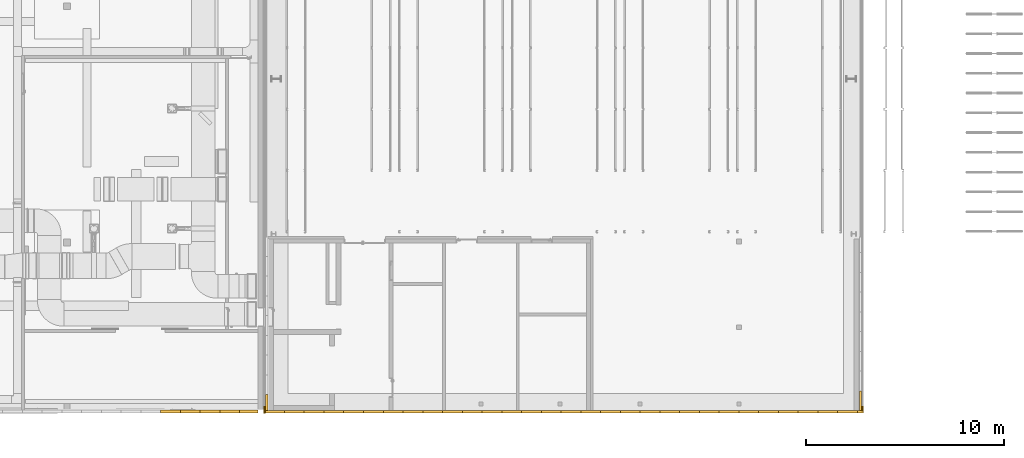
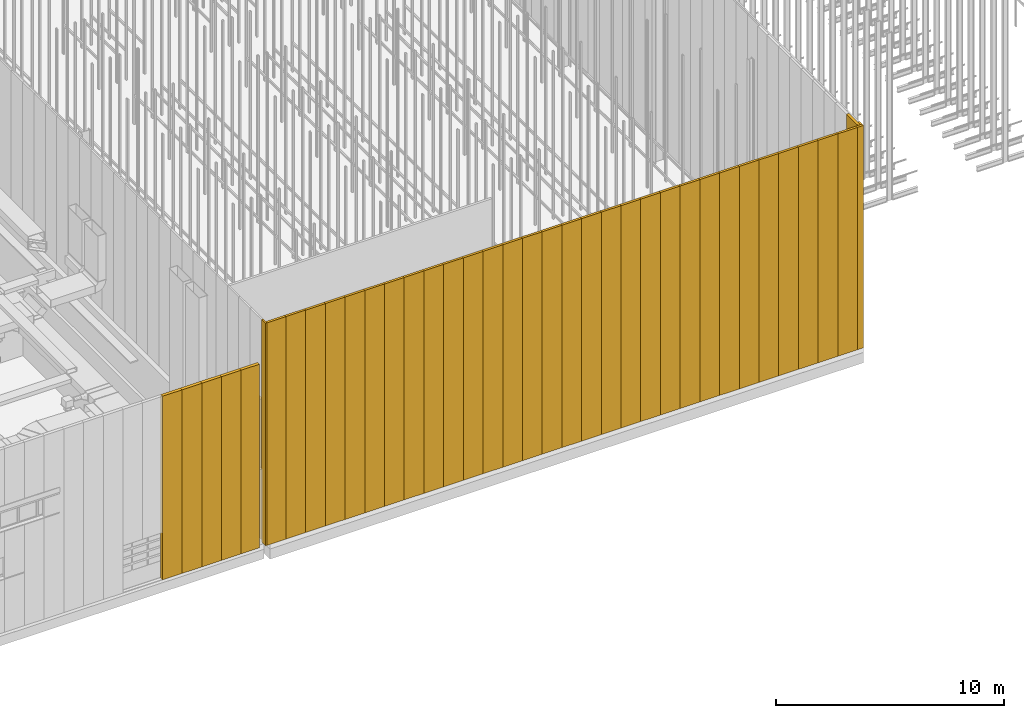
# One storey, part 227 of 302: 40 curtain walls, 6 elements without a shape of their own.
"""IFC2X3 building model written with IfcOpenShell, lengths in metres."""

import ifcopenshell
import ifcopenshell.guid

model = None  # the IFC model being written
_history = None  # IfcOwnerHistory: only IFC2X3 demands one
_inside = {}  # id of a spatial element -> (the spatial element, [elements in it])
_under = {}  # id of a project, library or spatial element -> (it, [spatial elements below it])
_declared = {}  # id of a project -> (the project, [libraries it declares])
_typed = {}  # id of a type object -> (the type object, [elements of that type])
_made_of = {}  # id of a material, layer set ... -> (it, [elements and type objects made of it])


def new_model(schema):
    """Start an empty IFC model of exactly this schema.

    Asked for "IFC4X3", IfcOpenShell would pick the latest addendum, in which some entities
    have other attributes; the version numbers below select the first issue.
    IFC2X3 requires an IfcOwnerHistory on every rooted entity: one is made here for all.
    """
    global model, _history
    if schema == "IFC4X3":
        model = ifcopenshell.file(schema_version=(4, 3, 0, 0))
    else:
        model = ifcopenshell.file(schema=schema)
    _inside.clear()
    _under.clear()
    _declared.clear()
    _typed.clear()
    _made_of.clear()
    _history = None
    if model.schema == "IFC2X3":
        org = make("IfcOrganization", Name="unknown")
        user = make(
            "IfcPersonAndOrganization",
            ThePerson=make("IfcPerson", FamilyName="unknown"),
            TheOrganization=org,
        )
        app = make(
            "IfcApplication",
            ApplicationDeveloper=org,
            Version="unknown",
            ApplicationFullName="unknown",
            ApplicationIdentifier="unknown",
        )
        _history = make(
            "IfcOwnerHistory",
            OwningUser=user,
            OwningApplication=app,
            ChangeAction="ADDED",
            CreationDate=0,
        )
    return model


def make(cls, **values):
    """One entity of the class cls with the attributes given. An attribute that is None is left unset."""
    return model.create_entity(
        cls, **{name: value for name, value in values.items() if value is not None}
    )


def entity(cls, *values):
    """Any entity or typed value of the class cls, its attributes in the order of the schema. None: left unset."""
    e = model.create_entity(cls)
    for i, value in enumerate(values):
        if value is not None:
            e[i] = value
    return e


def rooted(cls, **values):
    """An entity with a GlobalId (a new one), such as an element, a storey or a relation."""
    return make(cls, GlobalId=ifcopenshell.guid.new(), OwnerHistory=_history, **values)


def si_unit(unit_type, name, prefix=None):
    """IfcSIUnit, for example si_unit("LENGTHUNIT", "METRE", prefix="MILLI")."""
    return make("IfcSIUnit", UnitType=unit_type, Prefix=prefix, Name=name)


def converted_unit(unit_type, name, factor, base, dimensions=None, offset=None):
    """IfcConversionBasedUnit, such as the inch: factor (a typed value) times the base unit."""
    return make(
        "IfcConversionBasedUnit"
        if offset is None
        else "IfcConversionBasedUnitWithOffset",
        ConversionOffset=offset,
        Dimensions=None
        if dimensions is None
        else entity("IfcDimensionalExponents", *dimensions),
        UnitType=unit_type,
        Name=name,
        ConversionFactor=make(
            "IfcMeasureWithUnit", ValueComponent=factor, UnitComponent=base
        ),
    )


def derived_unit(unit_type, elements):
    """IfcDerivedUnit: a product of units, each with its exponent."""
    return make(
        "IfcDerivedUnit",
        Elements=[
            make("IfcDerivedUnitElement", Unit=unit, Exponent=power)
            for unit, power in elements
        ],
        UnitType=unit_type,
    )


def assignment(units):
    """IfcUnitAssignment: the units of a project."""
    return None if units is None else make("IfcUnitAssignment", Units=units)


def point(xyz):
    """IfcCartesianPoint."""
    return None if xyz is None else make("IfcCartesianPoint", Coordinates=xyz)


def direction(xyz):
    """IfcDirection."""
    return None if xyz is None else make("IfcDirection", DirectionRatios=xyz)


def frame(location, z_axis=None, x_axis=None):
    """IfcAxis2Placement3D, a coordinate frame: its origin and axes. An axis left out is left unset."""
    return make(
        "IfcAxis2Placement3D",
        Location=point(location),
        Axis=direction(z_axis),
        RefDirection=direction(x_axis),
    )


def frame_2d(location, x_axis=None):
    """IfcAxis2Placement2D, a coordinate frame in the plane: its origin and x axis."""
    return make(
        "IfcAxis2Placement2D", Location=point(location), RefDirection=direction(x_axis)
    )


def origin():
    """The frame at (0, 0, 0) with its axes left unset."""
    return frame((0.0, 0.0, 0.0))


def place(relative_to, where):
    """IfcLocalPlacement: puts the frame where relative to a parent placement (None: the world)."""
    return make(
        "IfcLocalPlacement", PlacementRelTo=relative_to, RelativePlacement=where
    )


def context(
    kind, dimensions, precision=None, world=None, true_north=None, identifier=None
):
    """IfcGeometricRepresentationContext, for example the 3D "Model" context."""
    return make(
        "IfcGeometricRepresentationContext",
        ContextIdentifier=identifier,
        ContextType=kind,
        CoordinateSpaceDimension=dimensions,
        Precision=precision,
        WorldCoordinateSystem=world,
        TrueNorth=true_north,
    )


def subcontext(parent, identifier, kind, view, scale=None):
    """IfcGeometricRepresentationSubContext, for example "Body" below "Model"."""
    return make(
        "IfcGeometricRepresentationSubContext",
        ContextIdentifier=identifier,
        ContextType=kind,
        ParentContext=parent,
        TargetScale=scale,
        TargetView=view,
    )


def project(units=None, contexts=None):
    """IfcProject with its units and contexts."""
    return rooted(
        "IfcProject",
        Name="project",
        RepresentationContexts=contexts,
        UnitsInContext=assignment(units),
    )


def spatial(cls, under=None, at=None, **own):
    """A site, building, storey or space (cls), placed at a placement, below another one or the project."""
    s = rooted(cls, ObjectPlacement=at, **own)
    if under is not None:
        _under.setdefault(under.id(), (under, []))[1].append(s)
    return s


def profile(cls, at=None, kind="AREA", **sizes):
    """A parametric profile (cls). Its sizes go by their IFC names, for example OverallWidth=200.0."""
    return make(cls, ProfileType=kind, Position=at, **sizes)


def rectangle(**sizes):
    """IfcRectangleProfileDef."""
    return profile("IfcRectangleProfileDef", **sizes)


def extrude(swept, where, along, depth):
    """IfcExtrudedAreaSolid: the profile swept, set in the frame where, extruded along a direction by depth."""
    return make(
        "IfcExtrudedAreaSolid",
        SweptArea=swept,
        Position=where,
        ExtrudedDirection=direction(along),
        Depth=depth,
    )


def shape(context_of_items, identifier, shape_type, items):
    """IfcShapeRepresentation: the items that make up one representation, for example the "Body"."""
    return make(
        "IfcShapeRepresentation",
        ContextOfItems=context_of_items,
        RepresentationIdentifier=identifier,
        RepresentationType=shape_type,
        Items=items,
    )


def material(Name=None, Category=None):
    """IfcMaterial."""
    return make("IfcMaterial", Name=Name, Category=Category)


def layer(
    of_material, thickness, ventilated=None, Name=None, Category=None, Priority=None
):
    """IfcMaterialLayer: one layer of a wall or slab, of a material (None: an air gap)."""
    return make(
        "IfcMaterialLayer",
        Material=of_material,
        LayerThickness=thickness,
        IsVentilated=ventilated,
        Name=Name,
        Category=Category,
        Priority=Priority,
    )


def layer_set(layers, Name=None):
    """IfcMaterialLayerSet."""
    return make("IfcMaterialLayerSet", MaterialLayers=layers, LayerSetName=Name)


def layer_usage(for_layer_set, set_direction, sense, offset, extent=None):
    """IfcMaterialLayerSetUsage: how a layer set lies in its element."""
    return make(
        "IfcMaterialLayerSetUsage",
        ForLayerSet=for_layer_set,
        LayerSetDirection=set_direction,
        DirectionSense=sense,
        OffsetFromReferenceLine=offset,
        ReferenceExtent=extent,
    )


def made_of(thing, what):
    """Note that an element or type object is made of a material, layer set ...; save() writes the relation."""
    if what is not None:
        _made_of.setdefault(what.id(), (what, []))[1].append(thing)
    return thing


def type_object(cls, material=None, **own):
    """A type object (cls), such as IfcWallType, which elements share."""
    return made_of(rooted(cls, **own), material)


def element(
    cls,
    number,
    at=None,
    inside=None,
    cuts=None,
    type_object=None,
    material=None,
    context=None,
    identifier="Body",
    shape_type=None,
    held_by="IfcProductDefinitionShape",
    body=None,
    shapes=None,
    **own,
):
    """One element of the class cls, such as IfcWall. Its Tag is "e" and its number.

    at: its placement. inside: the storey or other place that contains it. cuts: it is an
    opening in that element (IfcRelVoidsElement). A single representation is given by context,
    identifier, shape_type and body (its items); several are given by shapes. held_by: the class
    of the entity that holds the representations. save() writes the other relations.
    """
    e = rooted(cls, Tag="e%d" % number, ObjectPlacement=at, **own)
    if body is not None:
        shapes = [shape(context, identifier, shape_type, body)]
    if shapes is not None:
        e.Representation = make(held_by, Representations=shapes)
    if inside is not None:
        _inside.setdefault(inside.id(), (inside, []))[1].append(e)
    if cuts is not None:
        rooted(
            "IfcRelVoidsElement", RelatingBuildingElement=cuts, RelatedOpeningElement=e
        )
    if type_object is not None:
        _typed.setdefault(type_object.id(), (type_object, []))[1].append(e)
    return made_of(e, material)


def aggregate(whole, parts):
    """IfcRelAggregates: a whole, such as a stair, and the parts it consists of."""
    return rooted("IfcRelAggregates", RelatingObject=whole, RelatedObjects=parts)


def save(model, path):
    """Write the relations noted so far, then the file.

    IfcRelAggregates (storeys below a building ...), IfcRelContainedInSpatialStructure (elements
    in a storey), IfcRelDefinesByType, IfcRelAssociatesMaterial and IfcRelDeclares: one each for
    every whole, place, type object, material and project.
    """
    for whole, parts in _under.values():
        aggregate(whole, parts)
    for where, things in _inside.values():
        rooted(
            "IfcRelContainedInSpatialStructure",
            RelatedElements=things,
            RelatingStructure=where,
        )
    for kind, things in _typed.values():
        rooted("IfcRelDefinesByType", RelatedObjects=things, RelatingType=kind)
    for what, things in _made_of.values():
        rooted("IfcRelAssociatesMaterial", RelatedObjects=things, RelatingMaterial=what)
    for by, libraries in _declared.values():
        rooted("IfcRelDeclares", RelatingContext=by, RelatedDefinitions=libraries)
    model.write(path)


model = new_model("IFC2X3")

# Units and contexts
model_context = context("Model", 3, precision=1e-05, world=origin(), true_north=direction((6.12303176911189e-17, 1.0)))
body_context = subcontext(model_context, "Body", "Model", "MODEL_VIEW")
ifc_project = project(units=[si_unit("LENGTHUNIT", "METRE"), si_unit("AREAUNIT", "SQUARE_METRE"), si_unit("VOLUMEUNIT", "CUBIC_METRE"), converted_unit("PLANEANGLEUNIT", "DEGREE", entity("IfcRatioMeasure", 0.0174532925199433), si_unit("PLANEANGLEUNIT", "RADIAN"), dimensions=[0, 0, 0, 0, 0, 0, 0]), si_unit("MASSUNIT", "GRAM", prefix="KILO"), derived_unit("MASSDENSITYUNIT", [(si_unit("MASSUNIT", "GRAM", prefix="KILO"), 1), (si_unit("LENGTHUNIT", "METRE"), -3)]), derived_unit("MOMENTOFINERTIAUNIT", [(si_unit("LENGTHUNIT", "METRE"), 4)]), si_unit("TIMEUNIT", "SECOND"), si_unit("FREQUENCYUNIT", "HERTZ"), si_unit("THERMODYNAMICTEMPERATUREUNIT", "DEGREE_CELSIUS"), derived_unit("THERMALTRANSMITTANCEUNIT", [(si_unit("MASSUNIT", "GRAM", prefix="KILO"), 1), (si_unit("THERMODYNAMICTEMPERATUREUNIT", "KELVIN"), -1), (si_unit("TIMEUNIT", "SECOND"), -3)]), derived_unit("VOLUMETRICFLOWRATEUNIT", [(si_unit("LENGTHUNIT", "METRE"), 3), (si_unit("TIMEUNIT", "SECOND"), -1)]), si_unit("ELECTRICCURRENTUNIT", "AMPERE"), si_unit("ELECTRICVOLTAGEUNIT", "VOLT"), si_unit("POWERUNIT", "WATT"), si_unit("FORCEUNIT", "NEWTON", prefix="KILO"), si_unit("ILLUMINANCEUNIT", "LUX"), si_unit("LUMINOUSFLUXUNIT", "LUMEN"), si_unit("LUMINOUSINTENSITYUNIT", "CANDELA"), derived_unit("USERDEFINED", [(si_unit("MASSUNIT", "GRAM", prefix="KILO"), -1), (si_unit("LENGTHUNIT", "METRE"), -2), (si_unit("TIMEUNIT", "SECOND"), 3), (si_unit("LUMINOUSFLUXUNIT", "LUMEN"), 1)]), derived_unit("LINEARVELOCITYUNIT", [(si_unit("LENGTHUNIT", "METRE"), 1), (si_unit("TIMEUNIT", "SECOND"), -1)]), si_unit("PRESSUREUNIT", "PASCAL"), derived_unit("USERDEFINED", [(si_unit("LENGTHUNIT", "METRE"), -2), (si_unit("MASSUNIT", "GRAM", prefix="KILO"), 1), (si_unit("TIMEUNIT", "SECOND"), -2)]), derived_unit("LINEARFORCEUNIT", [(si_unit("MASSUNIT", "GRAM", prefix="KILO"), 1), (si_unit("LENGTHUNIT", "METRE"), 1), (si_unit("TIMEUNIT", "SECOND"), -2), (si_unit("LENGTHUNIT", "METRE"), -1)]), derived_unit("PLANARFORCEUNIT", [(si_unit("MASSUNIT", "GRAM", prefix="KILO"), 1), (si_unit("LENGTHUNIT", "METRE"), 1), (si_unit("TIMEUNIT", "SECOND"), -2), (si_unit("LENGTHUNIT", "METRE"), -2)])], contexts=[model_context])

# Site, building, storey
site_placement = place(None, origin())
site = spatial("IfcSite", under=ifc_project, at=site_placement, Name="Default", CompositionType="ELEMENT")
building_placement = place(site_placement, origin())
building = spatial("IfcBuilding", under=site, at=building_placement, CompositionType="ELEMENT")
storey_placement = place(building_placement, frame((0.0, 0.0, -1.3)))
storey = spatial("IfcBuildingStorey", under=building, at=storey_placement, Name="00_EG", CompositionType="ELEMENT", Elevation=-1.3)

# Curtain walls
curtain_wall_type_1 = type_object("IfcCurtainWallType", Name="Fassade:Sandwichpaneele 16cm", PredefinedType="NOTDEFINED")
curtain_wall_1_placement = place(storey_placement, frame((0.0, 0.0, 1.3)))
curtain_wall_1 = element("IfcCurtainWall", 1, at=curtain_wall_1_placement, inside=storey, type_object=curtain_wall_type_1, Name="Fassade:Sandwichpaneele 16cm", ObjectType="Fassade:Sandwichpaneele 16cm")
ifc_material_1 = material(Name="Prepainted_Steel-ArcelorMittal_Construction_HAIRULTRA-35-CORAL-4309-[RAL_3000]")
ifc_layer_1 = layer(ifc_material_1, 0.015)
ifc_material_2 = material(Name="ArcelorMittal-MineralWool")
ifc_layer_2 = layer(ifc_material_2, 0.13)
ifc_material_3 = material(Name="Prepainted_Steel-ArcelorMittal_Construction_INTÉRIEUR-12-WHITE-912")
ifc_layer_3 = layer(ifc_material_3, 0.015)
ifc_layer_set_1 = layer_set([ifc_layer_1, ifc_layer_2, ifc_layer_3], Name="Fassade:Sandwichpaneele 16cm")
ifc_layer_usage_1 = layer_usage(ifc_layer_set_1, "AXIS2", "POSITIVE", -0.08)
curtain_wall_type_2 = type_object("IfcCurtainWallType", Name="Basiswand:Sandwichpaneele d = 16cm aussen", PredefinedType="NOTDEFINED", material=ifc_layer_set_1)
curtain_wall_2_placement = place(storey_placement, frame((-210.840111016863, 14.898088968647, 1.27)))
curtain_wall_2 = element("IfcCurtainWall", 2, at=curtain_wall_2_placement, type_object=curtain_wall_type_2, material=ifc_layer_usage_1, Name="Basiswand:Sandwichpaneele d = 16cm aussen", ObjectType="Basiswand:Sandwichpaneele d = 16cm aussen", context=body_context, shape_type="SweptSolid", body=[
    extrude(rectangle(XDim=1.00000000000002, YDim=0.159999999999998, at=frame_2d((0.500000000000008, 0.0), x_axis=(-1.0, 0.0))), origin(), (0.0, 0.0, 1.0), 9.8509),
])
ifc_layer_usage_2 = layer_usage(ifc_layer_set_1, "AXIS2", "POSITIVE", -0.08)
curtain_wall_3_placement = place(storey_placement, frame((-209.840111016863, 14.898088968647, 1.27)))
curtain_wall_3 = element("IfcCurtainWall", 3, at=curtain_wall_3_placement, type_object=curtain_wall_type_2, material=ifc_layer_usage_2, Name="Basiswand:Sandwichpaneele d = 16cm aussen", ObjectType="Basiswand:Sandwichpaneele d = 16cm aussen", context=body_context, shape_type="SweptSolid", body=[
    extrude(rectangle(XDim=0.999999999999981, YDim=0.159999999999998, at=frame_2d((0.49999999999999, 0.0), x_axis=(-1.0, 0.0))), origin(), (0.0, 0.0, 1.0), 9.8509),
])
ifc_layer_usage_3 = layer_usage(ifc_layer_set_1, "AXIS2", "POSITIVE", -0.08)
curtain_wall_4_placement = place(storey_placement, frame((-208.840111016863, 14.898088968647, 1.27)))
curtain_wall_4 = element("IfcCurtainWall", 4, at=curtain_wall_4_placement, type_object=curtain_wall_type_2, material=ifc_layer_usage_3, Name="Basiswand:Sandwichpaneele d = 16cm aussen", ObjectType="Basiswand:Sandwichpaneele d = 16cm aussen", context=body_context, shape_type="SweptSolid", body=[
    extrude(rectangle(XDim=0.929999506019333, YDim=0.159999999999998, at=frame_2d((0.464999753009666, 0.0), x_axis=(-1.0, 0.0))), origin(), (0.0, 0.0, 1.0), 9.8509),
])
ifc_layer_usage_4 = layer_usage(ifc_layer_set_1, "AXIS2", "POSITIVE", -0.08)
curtain_wall_5_placement = place(storey_placement, frame((-211.840111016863, 14.898088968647, 1.27)))
curtain_wall_5 = element("IfcCurtainWall", 5, at=curtain_wall_5_placement, type_object=curtain_wall_type_2, material=ifc_layer_usage_4, Name="Basiswand:Sandwichpaneele d = 16cm aussen", ObjectType="Basiswand:Sandwichpaneele d = 16cm aussen", context=body_context, shape_type="SweptSolid", body=[
    extrude(rectangle(XDim=1.00000000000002, YDim=0.159999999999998, at=frame_2d((0.500000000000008, 0.0), x_axis=(-1.0, 0.0))), origin(), (0.0, 0.0, 1.0), 9.8509),
])
ifc_layer_usage_5 = layer_usage(ifc_layer_set_1, "AXIS2", "POSITIVE", -0.08)
curtain_wall_6_placement = place(storey_placement, frame((-212.840111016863, 14.898088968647, 1.27)))
curtain_wall_6 = element("IfcCurtainWall", 6, at=curtain_wall_6_placement, type_object=curtain_wall_type_2, material=ifc_layer_usage_5, Name="Basiswand:Sandwichpaneele d = 16cm aussen", ObjectType="Basiswand:Sandwichpaneele d = 16cm aussen", context=body_context, shape_type="SweptSolid", body=[
    extrude(rectangle(XDim=0.999999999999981, YDim=0.159999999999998, at=frame_2d((0.49999999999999, 0.0), x_axis=(-1.0, 0.0))), origin(), (0.0, 0.0, 1.0), 9.8509),
])
aggregate(curtain_wall_1, [curtain_wall_2, curtain_wall_3, curtain_wall_4, curtain_wall_5, curtain_wall_6])

curtain_wall_type_3 = type_object("IfcCurtainWallType", PredefinedType="NOTDEFINED")
curtain_wall_7_placement = place(storey_placement, frame((0.0, 0.0, 1.3)))
curtain_wall_7 = element("IfcCurtainWall", 7, at=curtain_wall_7_placement, inside=storey, type_object=curtain_wall_type_3)
ifc_layer_4 = layer(ifc_material_1, 0.01)
ifc_layer_5 = layer(ifc_material_2, 0.06)
ifc_layer_6 = layer(ifc_material_1, 0.01)
ifc_layer_set_2 = layer_set([ifc_layer_4, ifc_layer_5, ifc_layer_6], Name="Fassade:Sandwichpaneele Gebäude B 80mm")
ifc_layer_usage_6 = layer_usage(ifc_layer_set_2, "AXIS2", "NEGATIVE", 0.04)
curtain_wall_type_4 = type_object("IfcCurtainWallType", Name="Basiswand:Sandwichpaneele d = 8cm aussen", PredefinedType="NOTDEFINED", material=ifc_layer_set_2)
curtain_wall_8_placement = place(storey_placement, frame((-207.570111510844, 15.1680889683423, 1.27), z_axis=(0.0, 0.0, 1.0), x_axis=(0.0, -1.0, 0.0)))
curtain_wall_8 = element("IfcCurtainWall", 8, at=curtain_wall_8_placement, type_object=curtain_wall_type_4, material=ifc_layer_usage_6, Name="Basiswand:Sandwichpaneele d = 8cm aussen", ObjectType="Basiswand:Sandwichpaneele d = 8cm aussen", context=body_context, shape_type="SweptSolid", body=[
    extrude(rectangle(XDim=0.34999999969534, YDim=0.0799999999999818, at=frame_2d((0.17499999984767, 0.0), x_axis=(-1.0, 0.0))), origin(), (0.0, 0.0, 1.0), 11.9314),
])
aggregate(curtain_wall_7, [curtain_wall_8])

curtain_wall_9_placement = place(storey_placement, frame((0.0, 0.0, 1.3)))
curtain_wall_9 = element("IfcCurtainWall", 9, at=curtain_wall_9_placement, inside=storey, type_object=curtain_wall_type_3)
ifc_layer_usage_7 = layer_usage(ifc_layer_set_2, "AXIS2", "POSITIVE", -0.04)
curtain_wall_10_placement = place(storey_placement, frame((-177.310111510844, 15.1680889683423, 1.27), z_axis=(0.0, 0.0, 1.0), x_axis=(0.0, -1.0, 0.0)))
curtain_wall_10 = element("IfcCurtainWall", 10, at=curtain_wall_10_placement, type_object=curtain_wall_type_4, material=ifc_layer_usage_7, Name="Basiswand:Sandwichpaneele d = 8cm aussen", ObjectType="Basiswand:Sandwichpaneele d = 8cm aussen", context=body_context, shape_type="SweptSolid", body=[
    extrude(rectangle(XDim=0.229999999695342, YDim=0.0799999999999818, at=frame_2d((0.114999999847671, 0.0), x_axis=(-1.0, 0.0))), origin(), (0.0, 0.0, 1.0), 11.9314),
])
aggregate(curtain_wall_9, [curtain_wall_10])

curtain_wall_type_5 = type_object("IfcCurtainWallType", PredefinedType="NOTDEFINED")
curtain_wall_11_placement = place(storey_placement, frame((0.0, 0.0, 1.3)))
curtain_wall_11 = element("IfcCurtainWall", 11, at=curtain_wall_11_placement, inside=storey, type_object=curtain_wall_type_5)
ifc_layer_7 = layer(ifc_material_1, 0.015)
ifc_layer_8 = layer(ifc_material_2, 0.09)
ifc_layer_9 = layer(ifc_material_1, 0.015)
ifc_layer_set_3 = layer_set([ifc_layer_7, ifc_layer_8, ifc_layer_9], Name="Fassade:Sandwichpaneele Gebäude B 120mm")
ifc_layer_usage_8 = layer_usage(ifc_layer_set_3, "AXIS2", "NEGATIVE", 0.06)
curtain_wall_type_6 = type_object("IfcCurtainWallType", Name="Basiswand:Sandwichpaneele d = 12cm aussen", PredefinedType="NOTDEFINED", material=ifc_layer_set_3)
curtain_wall_12_placement = place(storey_placement, frame((-207.530111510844, 14.878088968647, 1.27)))
curtain_wall_12 = element("IfcCurtainWall", 12, at=curtain_wall_12_placement, type_object=curtain_wall_type_6, material=ifc_layer_usage_8, Name="Basiswand:Sandwichpaneele d = 12cm aussen", ObjectType="Basiswand:Sandwichpaneele d = 12cm aussen", context=body_context, shape_type="SweptSolid", body=[
    extrude(rectangle(XDim=0.960000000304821, YDim=0.119999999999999, at=frame_2d((0.480000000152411, 0.0), x_axis=(-1.0, 0.0))), origin(), (0.0, 0.0, 1.0), 11.9314),
])
ifc_layer_usage_9 = layer_usage(ifc_layer_set_3, "AXIS2", "NEGATIVE", 0.06)
curtain_wall_13_placement = place(storey_placement, frame((-206.570111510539, 14.878088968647, 1.27)))
curtain_wall_13 = element("IfcCurtainWall", 13, at=curtain_wall_13_placement, type_object=curtain_wall_type_6, material=ifc_layer_usage_9, Name="Basiswand:Sandwichpaneele d = 12cm aussen", ObjectType="Basiswand:Sandwichpaneele d = 12cm aussen", context=body_context, shape_type="SweptSolid", body=[
    extrude(rectangle(XDim=0.999999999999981, YDim=0.119999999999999, at=frame_2d((0.49999999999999, 0.0), x_axis=(-1.0, 0.0))), origin(), (0.0, 0.0, 1.0), 11.9314),
])
ifc_layer_usage_10 = layer_usage(ifc_layer_set_3, "AXIS2", "NEGATIVE", 0.06)
curtain_wall_14_placement = place(storey_placement, frame((-205.570111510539, 14.878088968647, 1.27)))
curtain_wall_14 = element("IfcCurtainWall", 14, at=curtain_wall_14_placement, type_object=curtain_wall_type_6, material=ifc_layer_usage_10, Name="Basiswand:Sandwichpaneele d = 12cm aussen", ObjectType="Basiswand:Sandwichpaneele d = 12cm aussen", context=body_context, shape_type="SweptSolid", body=[
    extrude(rectangle(XDim=1.00000000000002, YDim=0.119999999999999, at=frame_2d((0.500000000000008, 0.0), x_axis=(-1.0, 0.0))), origin(), (0.0, 0.0, 1.0), 11.9314),
])
ifc_layer_usage_11 = layer_usage(ifc_layer_set_3, "AXIS2", "NEGATIVE", 0.06)
curtain_wall_15_placement = place(storey_placement, frame((-204.570111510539, 14.878088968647, 1.27)))
curtain_wall_15 = element("IfcCurtainWall", 15, at=curtain_wall_15_placement, type_object=curtain_wall_type_6, material=ifc_layer_usage_11, Name="Basiswand:Sandwichpaneele d = 12cm aussen", ObjectType="Basiswand:Sandwichpaneele d = 12cm aussen", context=body_context, shape_type="SweptSolid", body=[
    extrude(rectangle(XDim=0.999999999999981, YDim=0.119999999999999, at=frame_2d((0.49999999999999, 0.0), x_axis=(-1.0, 0.0))), origin(), (0.0, 0.0, 1.0), 11.9314),
])
ifc_layer_usage_12 = layer_usage(ifc_layer_set_3, "AXIS2", "NEGATIVE", 0.06)
curtain_wall_16_placement = place(storey_placement, frame((-203.570111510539, 14.878088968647, 1.27)))
curtain_wall_16 = element("IfcCurtainWall", 16, at=curtain_wall_16_placement, type_object=curtain_wall_type_6, material=ifc_layer_usage_12, Name="Basiswand:Sandwichpaneele d = 12cm aussen", ObjectType="Basiswand:Sandwichpaneele d = 12cm aussen", context=body_context, shape_type="SweptSolid", body=[
    extrude(rectangle(XDim=1.00000000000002, YDim=0.119999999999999, at=frame_2d((0.500000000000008, 0.0), x_axis=(-1.0, 0.0))), origin(), (0.0, 0.0, 1.0), 11.9314),
])
ifc_layer_usage_13 = layer_usage(ifc_layer_set_3, "AXIS2", "NEGATIVE", 0.06)
curtain_wall_17_placement = place(storey_placement, frame((-202.570111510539, 14.878088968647, 1.27)))
curtain_wall_17 = element("IfcCurtainWall", 17, at=curtain_wall_17_placement, type_object=curtain_wall_type_6, material=ifc_layer_usage_13, Name="Basiswand:Sandwichpaneele d = 12cm aussen", ObjectType="Basiswand:Sandwichpaneele d = 12cm aussen", context=body_context, shape_type="SweptSolid", body=[
    extrude(rectangle(XDim=0.999999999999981, YDim=0.119999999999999, at=frame_2d((0.49999999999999, 0.0), x_axis=(-1.0, 0.0))), origin(), (0.0, 0.0, 1.0), 11.9314),
])
ifc_layer_usage_14 = layer_usage(ifc_layer_set_3, "AXIS2", "NEGATIVE", 0.06)
curtain_wall_18_placement = place(storey_placement, frame((-201.570111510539, 14.878088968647, 1.27)))
curtain_wall_18 = element("IfcCurtainWall", 18, at=curtain_wall_18_placement, type_object=curtain_wall_type_6, material=ifc_layer_usage_14, Name="Basiswand:Sandwichpaneele d = 12cm aussen", ObjectType="Basiswand:Sandwichpaneele d = 12cm aussen", context=body_context, shape_type="SweptSolid", body=[
    extrude(rectangle(XDim=1.00000000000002, YDim=0.119999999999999, at=frame_2d((0.500000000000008, 0.0), x_axis=(-1.0, 0.0))), origin(), (0.0, 0.0, 1.0), 11.9314),
])
ifc_layer_usage_15 = layer_usage(ifc_layer_set_3, "AXIS2", "NEGATIVE", 0.06)
curtain_wall_19_placement = place(storey_placement, frame((-200.570111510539, 14.878088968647, 1.27)))
curtain_wall_19 = element("IfcCurtainWall", 19, at=curtain_wall_19_placement, type_object=curtain_wall_type_6, material=ifc_layer_usage_15, Name="Basiswand:Sandwichpaneele d = 12cm aussen", ObjectType="Basiswand:Sandwichpaneele d = 12cm aussen", context=body_context, shape_type="SweptSolid", body=[
    extrude(rectangle(XDim=0.999999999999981, YDim=0.119999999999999, at=frame_2d((0.49999999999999, 0.0), x_axis=(-1.0, 0.0))), origin(), (0.0, 0.0, 1.0), 11.9314),
])
ifc_layer_usage_16 = layer_usage(ifc_layer_set_3, "AXIS2", "NEGATIVE", 0.06)
curtain_wall_20_placement = place(storey_placement, frame((-199.570111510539, 14.878088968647, 1.27)))
curtain_wall_20 = element("IfcCurtainWall", 20, at=curtain_wall_20_placement, type_object=curtain_wall_type_6, material=ifc_layer_usage_16, Name="Basiswand:Sandwichpaneele d = 12cm aussen", ObjectType="Basiswand:Sandwichpaneele d = 12cm aussen", context=body_context, shape_type="SweptSolid", body=[
    extrude(rectangle(XDim=1.00000000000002, YDim=0.119999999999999, at=frame_2d((0.500000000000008, 0.0), x_axis=(-1.0, 0.0))), origin(), (0.0, 0.0, 1.0), 11.9314),
])
ifc_layer_usage_17 = layer_usage(ifc_layer_set_3, "AXIS2", "NEGATIVE", 0.06)
curtain_wall_21_placement = place(storey_placement, frame((-198.570111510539, 14.878088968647, 1.27)))
curtain_wall_21 = element("IfcCurtainWall", 21, at=curtain_wall_21_placement, type_object=curtain_wall_type_6, material=ifc_layer_usage_17, Name="Basiswand:Sandwichpaneele d = 12cm aussen", ObjectType="Basiswand:Sandwichpaneele d = 12cm aussen", context=body_context, shape_type="SweptSolid", body=[
    extrude(rectangle(XDim=1.00000000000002, YDim=0.119999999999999, at=frame_2d((0.500000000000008, 0.0), x_axis=(-1.0, 0.0))), origin(), (0.0, 0.0, 1.0), 11.9314),
])
ifc_layer_usage_18 = layer_usage(ifc_layer_set_3, "AXIS2", "NEGATIVE", 0.06)
curtain_wall_22_placement = place(storey_placement, frame((-197.570111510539, 14.878088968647, 1.27)))
curtain_wall_22 = element("IfcCurtainWall", 22, at=curtain_wall_22_placement, type_object=curtain_wall_type_6, material=ifc_layer_usage_18, Name="Basiswand:Sandwichpaneele d = 12cm aussen", ObjectType="Basiswand:Sandwichpaneele d = 12cm aussen", context=body_context, shape_type="SweptSolid", body=[
    extrude(rectangle(XDim=0.999999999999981, YDim=0.119999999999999, at=frame_2d((0.49999999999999, 0.0), x_axis=(-1.0, 0.0))), origin(), (0.0, 0.0, 1.0), 11.9314),
])
ifc_layer_usage_19 = layer_usage(ifc_layer_set_3, "AXIS2", "NEGATIVE", 0.06)
curtain_wall_23_placement = place(storey_placement, frame((-196.570111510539, 14.878088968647, 1.27)))
curtain_wall_23 = element("IfcCurtainWall", 23, at=curtain_wall_23_placement, type_object=curtain_wall_type_6, material=ifc_layer_usage_19, Name="Basiswand:Sandwichpaneele d = 12cm aussen", ObjectType="Basiswand:Sandwichpaneele d = 12cm aussen", context=body_context, shape_type="SweptSolid", body=[
    extrude(rectangle(XDim=1.00000000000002, YDim=0.119999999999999, at=frame_2d((0.500000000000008, 0.0), x_axis=(-1.0, 0.0))), origin(), (0.0, 0.0, 1.0), 11.9314),
])
ifc_layer_usage_20 = layer_usage(ifc_layer_set_3, "AXIS2", "NEGATIVE", 0.06)
curtain_wall_24_placement = place(storey_placement, frame((-195.570111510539, 14.878088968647, 1.27)))
curtain_wall_24 = element("IfcCurtainWall", 24, at=curtain_wall_24_placement, type_object=curtain_wall_type_6, material=ifc_layer_usage_20, Name="Basiswand:Sandwichpaneele d = 12cm aussen", ObjectType="Basiswand:Sandwichpaneele d = 12cm aussen", context=body_context, shape_type="SweptSolid", body=[
    extrude(rectangle(XDim=0.999999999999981, YDim=0.119999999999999, at=frame_2d((0.49999999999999, 0.0), x_axis=(-1.0, 0.0))), origin(), (0.0, 0.0, 1.0), 11.9314),
])
ifc_layer_usage_21 = layer_usage(ifc_layer_set_3, "AXIS2", "NEGATIVE", 0.06)
curtain_wall_25_placement = place(storey_placement, frame((-194.570111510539, 14.878088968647, 1.27)))
curtain_wall_25 = element("IfcCurtainWall", 25, at=curtain_wall_25_placement, type_object=curtain_wall_type_6, material=ifc_layer_usage_21, Name="Basiswand:Sandwichpaneele d = 12cm aussen", ObjectType="Basiswand:Sandwichpaneele d = 12cm aussen", context=body_context, shape_type="SweptSolid", body=[
    extrude(rectangle(XDim=1.00000000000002, YDim=0.119999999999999, at=frame_2d((0.500000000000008, 0.0), x_axis=(-1.0, 0.0))), origin(), (0.0, 0.0, 1.0), 11.9314),
])
ifc_layer_usage_22 = layer_usage(ifc_layer_set_3, "AXIS2", "NEGATIVE", 0.06)
curtain_wall_26_placement = place(storey_placement, frame((-193.570111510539, 14.878088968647, 1.27)))
curtain_wall_26 = element("IfcCurtainWall", 26, at=curtain_wall_26_placement, type_object=curtain_wall_type_6, material=ifc_layer_usage_22, Name="Basiswand:Sandwichpaneele d = 12cm aussen", ObjectType="Basiswand:Sandwichpaneele d = 12cm aussen", context=body_context, shape_type="SweptSolid", body=[
    extrude(rectangle(XDim=0.999999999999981, YDim=0.119999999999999, at=frame_2d((0.49999999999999, 0.0), x_axis=(-1.0, 0.0))), origin(), (0.0, 0.0, 1.0), 11.9314),
])
ifc_layer_usage_23 = layer_usage(ifc_layer_set_3, "AXIS2", "NEGATIVE", 0.06)
curtain_wall_27_placement = place(storey_placement, frame((-192.570111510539, 14.878088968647, 1.27)))
curtain_wall_27 = element("IfcCurtainWall", 27, at=curtain_wall_27_placement, type_object=curtain_wall_type_6, material=ifc_layer_usage_23, Name="Basiswand:Sandwichpaneele d = 12cm aussen", ObjectType="Basiswand:Sandwichpaneele d = 12cm aussen", context=body_context, shape_type="SweptSolid", body=[
    extrude(rectangle(XDim=1.00000000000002, YDim=0.119999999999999, at=frame_2d((0.500000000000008, 0.0), x_axis=(-1.0, 0.0))), origin(), (0.0, 0.0, 1.0), 11.9314),
])
ifc_layer_usage_24 = layer_usage(ifc_layer_set_3, "AXIS2", "NEGATIVE", 0.06)
curtain_wall_28_placement = place(storey_placement, frame((-191.570111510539, 14.878088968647, 1.27)))
curtain_wall_28 = element("IfcCurtainWall", 28, at=curtain_wall_28_placement, type_object=curtain_wall_type_6, material=ifc_layer_usage_24, Name="Basiswand:Sandwichpaneele d = 12cm aussen", ObjectType="Basiswand:Sandwichpaneele d = 12cm aussen", context=body_context, shape_type="SweptSolid", body=[
    extrude(rectangle(XDim=0.999999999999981, YDim=0.119999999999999, at=frame_2d((0.49999999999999, 0.0), x_axis=(-1.0, 0.0))), origin(), (0.0, 0.0, 1.0), 11.9314),
])
ifc_layer_usage_25 = layer_usage(ifc_layer_set_3, "AXIS2", "NEGATIVE", 0.06)
curtain_wall_29_placement = place(storey_placement, frame((-190.570111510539, 14.878088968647, 1.27)))
curtain_wall_29 = element("IfcCurtainWall", 29, at=curtain_wall_29_placement, type_object=curtain_wall_type_6, material=ifc_layer_usage_25, Name="Basiswand:Sandwichpaneele d = 12cm aussen", ObjectType="Basiswand:Sandwichpaneele d = 12cm aussen", context=body_context, shape_type="SweptSolid", body=[
    extrude(rectangle(XDim=1.00000000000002, YDim=0.119999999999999, at=frame_2d((0.500000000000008, 0.0), x_axis=(-1.0, 0.0))), origin(), (0.0, 0.0, 1.0), 11.9314),
])
ifc_layer_usage_26 = layer_usage(ifc_layer_set_3, "AXIS2", "NEGATIVE", 0.06)
curtain_wall_30_placement = place(storey_placement, frame((-189.570111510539, 14.878088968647, 1.27)))
curtain_wall_30 = element("IfcCurtainWall", 30, at=curtain_wall_30_placement, type_object=curtain_wall_type_6, material=ifc_layer_usage_26, Name="Basiswand:Sandwichpaneele d = 12cm aussen", ObjectType="Basiswand:Sandwichpaneele d = 12cm aussen", context=body_context, shape_type="SweptSolid", body=[
    extrude(rectangle(XDim=1.00000000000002, YDim=0.119999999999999, at=frame_2d((0.500000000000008, 0.0), x_axis=(-1.0, 0.0))), origin(), (0.0, 0.0, 1.0), 11.9314),
])
ifc_layer_usage_27 = layer_usage(ifc_layer_set_3, "AXIS2", "NEGATIVE", 0.06)
curtain_wall_31_placement = place(storey_placement, frame((-188.570111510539, 14.878088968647, 1.27)))
curtain_wall_31 = element("IfcCurtainWall", 31, at=curtain_wall_31_placement, type_object=curtain_wall_type_6, material=ifc_layer_usage_27, Name="Basiswand:Sandwichpaneele d = 12cm aussen", ObjectType="Basiswand:Sandwichpaneele d = 12cm aussen", context=body_context, shape_type="SweptSolid", body=[
    extrude(rectangle(XDim=0.999999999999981, YDim=0.119999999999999, at=frame_2d((0.49999999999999, 0.0), x_axis=(-1.0, 0.0))), origin(), (0.0, 0.0, 1.0), 11.9314),
])
ifc_layer_usage_28 = layer_usage(ifc_layer_set_3, "AXIS2", "NEGATIVE", 0.06)
curtain_wall_32_placement = place(storey_placement, frame((-187.570111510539, 14.878088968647, 1.27)))
curtain_wall_32 = element("IfcCurtainWall", 32, at=curtain_wall_32_placement, type_object=curtain_wall_type_6, material=ifc_layer_usage_28, Name="Basiswand:Sandwichpaneele d = 12cm aussen", ObjectType="Basiswand:Sandwichpaneele d = 12cm aussen", context=body_context, shape_type="SweptSolid", body=[
    extrude(rectangle(XDim=1.00000000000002, YDim=0.119999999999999, at=frame_2d((0.500000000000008, 0.0), x_axis=(-1.0, 0.0))), origin(), (0.0, 0.0, 1.0), 11.9314),
])
ifc_layer_usage_29 = layer_usage(ifc_layer_set_3, "AXIS2", "NEGATIVE", 0.06)
curtain_wall_33_placement = place(storey_placement, frame((-186.570111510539, 14.878088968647, 1.27)))
curtain_wall_33 = element("IfcCurtainWall", 33, at=curtain_wall_33_placement, type_object=curtain_wall_type_6, material=ifc_layer_usage_29, Name="Basiswand:Sandwichpaneele d = 12cm aussen", ObjectType="Basiswand:Sandwichpaneele d = 12cm aussen", context=body_context, shape_type="SweptSolid", body=[
    extrude(rectangle(XDim=0.999999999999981, YDim=0.119999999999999, at=frame_2d((0.49999999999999, 0.0), x_axis=(-1.0, 0.0))), origin(), (0.0, 0.0, 1.0), 11.9314),
])
ifc_layer_usage_30 = layer_usage(ifc_layer_set_3, "AXIS2", "NEGATIVE", 0.06)
curtain_wall_34_placement = place(storey_placement, frame((-185.570111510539, 14.878088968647, 1.27)))
curtain_wall_34 = element("IfcCurtainWall", 34, at=curtain_wall_34_placement, type_object=curtain_wall_type_6, material=ifc_layer_usage_30, Name="Basiswand:Sandwichpaneele d = 12cm aussen", ObjectType="Basiswand:Sandwichpaneele d = 12cm aussen", context=body_context, shape_type="SweptSolid", body=[
    extrude(rectangle(XDim=1.00000000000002, YDim=0.119999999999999, at=frame_2d((0.500000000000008, 0.0), x_axis=(-1.0, 0.0))), origin(), (0.0, 0.0, 1.0), 11.9314),
])
ifc_layer_usage_31 = layer_usage(ifc_layer_set_3, "AXIS2", "NEGATIVE", 0.06)
curtain_wall_35_placement = place(storey_placement, frame((-184.570111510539, 14.878088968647, 1.27)))
curtain_wall_35 = element("IfcCurtainWall", 35, at=curtain_wall_35_placement, type_object=curtain_wall_type_6, material=ifc_layer_usage_31, Name="Basiswand:Sandwichpaneele d = 12cm aussen", ObjectType="Basiswand:Sandwichpaneele d = 12cm aussen", context=body_context, shape_type="SweptSolid", body=[
    extrude(rectangle(XDim=0.999999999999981, YDim=0.119999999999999, at=frame_2d((0.49999999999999, 0.0), x_axis=(-1.0, 0.0))), origin(), (0.0, 0.0, 1.0), 11.9314),
])
ifc_layer_usage_32 = layer_usage(ifc_layer_set_3, "AXIS2", "NEGATIVE", 0.06)
curtain_wall_36_placement = place(storey_placement, frame((-183.570111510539, 14.878088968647, 1.27)))
curtain_wall_36 = element("IfcCurtainWall", 36, at=curtain_wall_36_placement, type_object=curtain_wall_type_6, material=ifc_layer_usage_32, Name="Basiswand:Sandwichpaneele d = 12cm aussen", ObjectType="Basiswand:Sandwichpaneele d = 12cm aussen", context=body_context, shape_type="SweptSolid", body=[
    extrude(rectangle(XDim=1.00000000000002, YDim=0.119999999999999, at=frame_2d((0.500000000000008, 0.0), x_axis=(-1.0, 0.0))), origin(), (0.0, 0.0, 1.0), 11.9314),
])
ifc_layer_usage_33 = layer_usage(ifc_layer_set_3, "AXIS2", "NEGATIVE", 0.06)
curtain_wall_37_placement = place(storey_placement, frame((-182.570111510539, 14.878088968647, 1.27)))
curtain_wall_37 = element("IfcCurtainWall", 37, at=curtain_wall_37_placement, type_object=curtain_wall_type_6, material=ifc_layer_usage_33, Name="Basiswand:Sandwichpaneele d = 12cm aussen", ObjectType="Basiswand:Sandwichpaneele d = 12cm aussen", context=body_context, shape_type="SweptSolid", body=[
    extrude(rectangle(XDim=0.999999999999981, YDim=0.119999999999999, at=frame_2d((0.49999999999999, 0.0), x_axis=(-1.0, 0.0))), origin(), (0.0, 0.0, 1.0), 11.9314),
])
ifc_layer_usage_34 = layer_usage(ifc_layer_set_3, "AXIS2", "NEGATIVE", 0.06)
curtain_wall_38_placement = place(storey_placement, frame((-181.570111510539, 14.878088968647, 1.27)))
curtain_wall_38 = element("IfcCurtainWall", 38, at=curtain_wall_38_placement, type_object=curtain_wall_type_6, material=ifc_layer_usage_34, Name="Basiswand:Sandwichpaneele d = 12cm aussen", ObjectType="Basiswand:Sandwichpaneele d = 12cm aussen", context=body_context, shape_type="SweptSolid", body=[
    extrude(rectangle(XDim=1.00000000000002, YDim=0.119999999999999, at=frame_2d((0.500000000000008, 0.0), x_axis=(-1.0, 0.0))), origin(), (0.0, 0.0, 1.0), 11.9314),
])
ifc_layer_usage_35 = layer_usage(ifc_layer_set_3, "AXIS2", "NEGATIVE", 0.06)
curtain_wall_39_placement = place(storey_placement, frame((-180.570111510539, 14.878088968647, 1.27)))
curtain_wall_39 = element("IfcCurtainWall", 39, at=curtain_wall_39_placement, type_object=curtain_wall_type_6, material=ifc_layer_usage_35, Name="Basiswand:Sandwichpaneele d = 12cm aussen", ObjectType="Basiswand:Sandwichpaneele d = 12cm aussen", context=body_context, shape_type="SweptSolid", body=[
    extrude(rectangle(XDim=0.999999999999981, YDim=0.119999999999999, at=frame_2d((0.49999999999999, 0.0), x_axis=(-1.0, 0.0))), origin(), (0.0, 0.0, 1.0), 11.9314),
])
ifc_layer_usage_36 = layer_usage(ifc_layer_set_3, "AXIS2", "NEGATIVE", 0.06)
curtain_wall_40_placement = place(storey_placement, frame((-179.570111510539, 14.878088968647, 1.27)))
curtain_wall_40 = element("IfcCurtainWall", 40, at=curtain_wall_40_placement, type_object=curtain_wall_type_6, material=ifc_layer_usage_36, Name="Basiswand:Sandwichpaneele d = 12cm aussen", ObjectType="Basiswand:Sandwichpaneele d = 12cm aussen", context=body_context, shape_type="SweptSolid", body=[
    extrude(rectangle(XDim=1.00000000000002, YDim=0.119999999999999, at=frame_2d((0.500000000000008, 0.0), x_axis=(-1.0, 0.0))), origin(), (0.0, 0.0, 1.0), 11.9314),
])
ifc_layer_usage_37 = layer_usage(ifc_layer_set_3, "AXIS2", "NEGATIVE", 0.06)
curtain_wall_41_placement = place(storey_placement, frame((-178.570111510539, 14.878088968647, 1.27)))
curtain_wall_41 = element("IfcCurtainWall", 41, at=curtain_wall_41_placement, type_object=curtain_wall_type_6, material=ifc_layer_usage_37, Name="Basiswand:Sandwichpaneele d = 12cm aussen", ObjectType="Basiswand:Sandwichpaneele d = 12cm aussen", context=body_context, shape_type="SweptSolid", body=[
    extrude(rectangle(XDim=0.999999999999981, YDim=0.119999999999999, at=frame_2d((0.49999999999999, 0.0), x_axis=(-1.0, 0.0))), origin(), (0.0, 0.0, 1.0), 11.9314),
])
ifc_layer_usage_38 = layer_usage(ifc_layer_set_3, "AXIS2", "NEGATIVE", 0.06)
curtain_wall_42_placement = place(storey_placement, frame((-177.570111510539, 14.878088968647, 1.27)))
curtain_wall_42 = element("IfcCurtainWall", 42, at=curtain_wall_42_placement, type_object=curtain_wall_type_6, material=ifc_layer_usage_38, Name="Basiswand:Sandwichpaneele d = 12cm aussen", ObjectType="Basiswand:Sandwichpaneele d = 12cm aussen", context=body_context, shape_type="SweptSolid", body=[
    extrude(rectangle(XDim=0.299999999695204, YDim=0.119999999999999, at=frame_2d((0.149999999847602, 0.0), x_axis=(-1.0, 0.0))), origin(), (0.0, 0.0, 1.0), 11.9314),
])
aggregate(curtain_wall_11, [curtain_wall_12, curtain_wall_13, curtain_wall_14, curtain_wall_15, curtain_wall_16, curtain_wall_17, curtain_wall_18, curtain_wall_19, curtain_wall_20, curtain_wall_21, curtain_wall_22, curtain_wall_23, curtain_wall_24, curtain_wall_25, curtain_wall_26, curtain_wall_27, curtain_wall_28, curtain_wall_29, curtain_wall_30, curtain_wall_31, curtain_wall_32, curtain_wall_33, curtain_wall_34, curtain_wall_35, curtain_wall_36, curtain_wall_37, curtain_wall_38, curtain_wall_39, curtain_wall_40, curtain_wall_41, curtain_wall_42])

curtain_wall_43_placement = place(storey_placement, frame((0.0, 0.0, 1.3)))
curtain_wall_43 = element("IfcCurtainWall", 43, at=curtain_wall_43_placement, inside=storey, type_object=curtain_wall_type_5)
ifc_layer_usage_39 = layer_usage(ifc_layer_set_3, "AXIS2", "NEGATIVE", 0.06)
curtain_wall_44_placement = place(storey_placement, frame((-207.460111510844, 15.7480889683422, 1.27), z_axis=(0.0, 0.0, 1.0), x_axis=(0.0, -1.0, 0.0)))
curtain_wall_44 = element("IfcCurtainWall", 44, at=curtain_wall_44_placement, type_object=curtain_wall_type_6, material=ifc_layer_usage_39, Name="Basiswand:Sandwichpaneele d = 12cm aussen", ObjectType="Basiswand:Sandwichpaneele d = 12cm aussen", context=body_context, shape_type="SweptSolid", body=[
    extrude(rectangle(XDim=0.809999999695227, YDim=0.119999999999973, at=frame_2d((0.404999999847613, 0.0), x_axis=(-1.0, 0.0))), origin(), (0.0, 0.0, 1.0), 7.47),
])
aggregate(curtain_wall_43, [curtain_wall_44])

curtain_wall_45_placement = place(storey_placement, frame((0.0, 0.0, 1.3)))
curtain_wall_45 = element("IfcCurtainWall", 45, at=curtain_wall_45_placement, inside=storey, type_object=curtain_wall_type_5)
ifc_layer_usage_40 = layer_usage(ifc_layer_set_3, "AXIS2", "NEGATIVE", 0.06)
curtain_wall_46_placement = place(storey_placement, frame((-177.420111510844, 14.938088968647, 1.27), z_axis=(0.0, 0.0, 1.0), x_axis=(0.0, 1.0, 0.0)))
curtain_wall_46 = element("IfcCurtainWall", 46, at=curtain_wall_46_placement, type_object=curtain_wall_type_6, material=ifc_layer_usage_40, Name="Basiswand:Sandwichpaneele d = 12cm aussen", ObjectType="Basiswand:Sandwichpaneele d = 12cm aussen", context=body_context, shape_type="SweptSolid", body=[
    extrude(rectangle(XDim=1.0000000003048, YDim=0.119999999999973, at=frame_2d((0.5000000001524, 0.0), x_axis=(-1.0, 0.0))), origin(), (0.0, 0.0, 1.0), 11.9314),
])
aggregate(curtain_wall_45, [curtain_wall_46])

save(model, "model.ifc")
